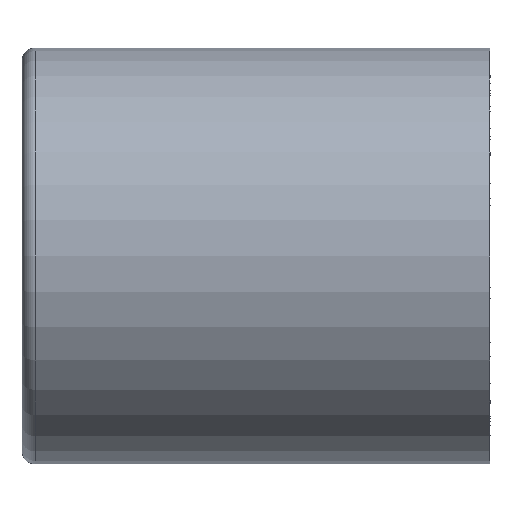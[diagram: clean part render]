
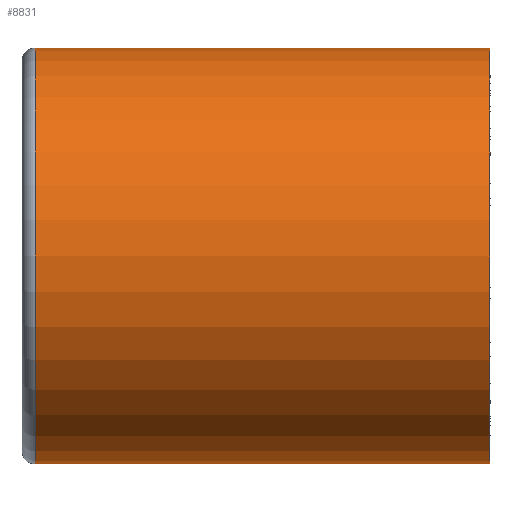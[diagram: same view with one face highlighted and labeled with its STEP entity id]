
A CAD part, front view. The second image highlights one B-rep face of the part: STEP entity #8831.
In plain terms, the highlighted cylindrical face has radius 32 mm (diameter 64 mm), a partial arc.
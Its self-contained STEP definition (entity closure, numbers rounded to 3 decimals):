
#87 = EDGE_CURVE ( 'NONE', #5386, #4043, #1786, .T. ) ;
#182 = VERTEX_POINT ( 'NONE', #3068 ) ;
#332 = ORIENTED_EDGE ( 'NONE', *, *, #5589, .T. ) ;
#631 = EDGE_LOOP ( 'NONE', ( #1798, #5507, #332, #7587 ) ) ;
#1786 = LINE ( 'NONE', #3785, #7680 ) ;
#1798 = ORIENTED_EDGE ( 'NONE', *, *, #87, .F. ) ;
#1847 = AXIS2_PLACEMENT_3D ( 'NONE', #4953, #4830, #4797 ) ;
#2047 = LINE ( 'NONE', #8852, #7723 ) ;
#2416 = CIRCLE ( 'NONE', #8198, 32. ) ;
#2896 = AXIS2_PLACEMENT_3D ( 'NONE', #8098, #5194, #9330 ) ;
#3068 = CARTESIAN_POINT ( 'NONE',  ( -102.602, 7.851, -32. ) ) ;
#3108 = CARTESIAN_POINT ( 'NONE',  ( -102.602, 7.851, 32. ) ) ;
#3186 = DIRECTION ( 'NONE',  ( 0., 0., -1. ) ) ;
#3198 = DIRECTION ( 'NONE',  ( 1., 0., 0. ) ) ;
#3785 = CARTESIAN_POINT ( 'NONE',  ( -20.571, 7.851, 32. ) ) ;
#3819 = DIRECTION ( 'NONE',  ( 1., 0., 0. ) ) ;
#4043 = VERTEX_POINT ( 'NONE', #8987 ) ;
#4218 = EDGE_CURVE ( 'NONE', #5386, #182, #6560, .T. ) ;
#4797 = DIRECTION ( 'NONE',  ( 0., 0., 1. ) ) ;
#4830 = DIRECTION ( 'NONE',  ( 1., 0., 0. ) ) ;
#4953 = CARTESIAN_POINT ( 'NONE',  ( -102.602, 7.851, 0. ) ) ;
#5194 = DIRECTION ( 'NONE',  ( 1., 0., 0. ) ) ;
#5386 = VERTEX_POINT ( 'NONE', #3108 ) ;
#5507 = ORIENTED_EDGE ( 'NONE', *, *, #4218, .T. ) ;
#5589 = EDGE_CURVE ( 'NONE', #182, #8951, #2047, .T. ) ;
#6092 = EDGE_CURVE ( 'NONE', #4043, #8951, #2416, .T. ) ;
#6115 = FACE_OUTER_BOUND ( 'NONE', #631, .T. ) ;
#6560 = CIRCLE ( 'NONE', #1847, 32. ) ;
#7109 = CYLINDRICAL_SURFACE ( 'NONE', #2896, 32. ) ;
#7170 = CARTESIAN_POINT ( 'NONE',  ( -32.602, 7.851, -32. ) ) ;
#7587 = ORIENTED_EDGE ( 'NONE', *, *, #6092, .F. ) ;
#7680 = VECTOR ( 'NONE', #3819, 1000. ) ;
#7723 = VECTOR ( 'NONE', #8944, 1000. ) ;
#7903 = CARTESIAN_POINT ( 'NONE',  ( -32.602, 7.851, 0. ) ) ;
#8098 = CARTESIAN_POINT ( 'NONE',  ( -20.571, 7.851, 0. ) ) ;
#8198 = AXIS2_PLACEMENT_3D ( 'NONE', #7903, #3198, #3186 ) ;
#8831 = ADVANCED_FACE ( 'NONE', ( #6115 ), #7109, .T. ) ;
#8852 = CARTESIAN_POINT ( 'NONE',  ( -20.571, 7.851, -32. ) ) ;
#8944 = DIRECTION ( 'NONE',  ( 1., 0., 0. ) ) ;
#8951 = VERTEX_POINT ( 'NONE', #7170 ) ;
#8987 = CARTESIAN_POINT ( 'NONE',  ( -32.602, 7.851, 32. ) ) ;
#9330 = DIRECTION ( 'NONE',  ( 0., 0., -1. ) ) ;
